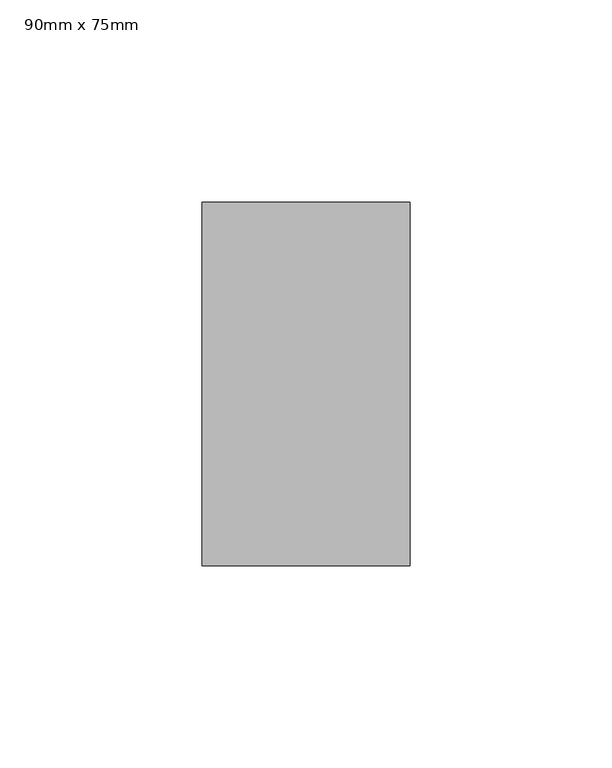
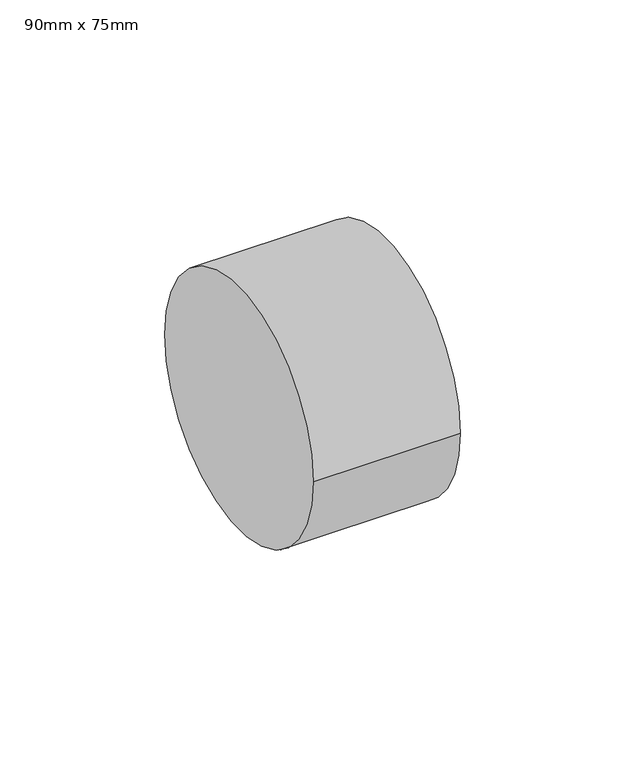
"""IFC4 building model written with IfcOpenShell, lengths in millimetres: pipe fitting geometry, PipeFitting_HTA_CPVC_ReducingBushesShortPattern : 90mm x 75mm."""

from ifc_helpers import new_model, si_unit, point, frame, origin, origin_2d, place, context, project, spatial, circle_curve, trimmed, segment, composite_curve, outline, extrude, source, transform, mapped, element, save


def pipe_fitting_90mm_x_75mm_11f525ed(model_context):
    return source(origin(), model_context, "Body", "SweptSolid", [
        extrude(outline(composite_curve([segment(trimmed(circle_curve(origin_2d(), 45.0), [point((-45.0, 0.0))], [point((45.0, 0.0))], False, "CARTESIAN"), True, "CONTINUOUS"), segment(trimmed(circle_curve(origin_2d(), 45.0), [point((45.0, 0.0))], [point((-45.0, 0.0))], False, "CARTESIAN"), True, "CONTINUOUS")], self_intersect=False)), frame((-25.75, 0.0, 0.0), z_axis=(1.0, 0.0, 0.0), x_axis=(0.0, 1.0, 0.0)), (0.0, 0.0, 1.0), 51.5),
    ])


if __name__ == "__main__":
    model = new_model("IFC4")
    model_context = context("Model", 3, world=origin())
    ifc_project = project(units=[si_unit("LENGTHUNIT", "METRE", prefix="MILLI")], contexts=[model_context])
    site = spatial("IfcSite", under=ifc_project)
    building = spatial("IfcBuilding", under=site)
    placement = place(None, origin())
    pipe_fitting_90mm_x_75mm_shape = pipe_fitting_90mm_x_75mm_11f525ed(model_context)
    element("IfcPipeFitting", 1, ObjectType="PipeFitting_HTA_CPVC_ReducingBushesShortPattern : 90mm x 75mm", at=placement, inside=building, context=model_context, shape_type="MappedRepresentation", body=[
        mapped(pipe_fitting_90mm_x_75mm_shape, transform((0.0, 0.0, 0.0), x_axis=(1.0, 0.0, 0.0), y_axis=(0.0, 1.0, 0.0), z_axis=(0.0, 0.0, 1.0))),
    ])
    save(model, "model.ifc")
